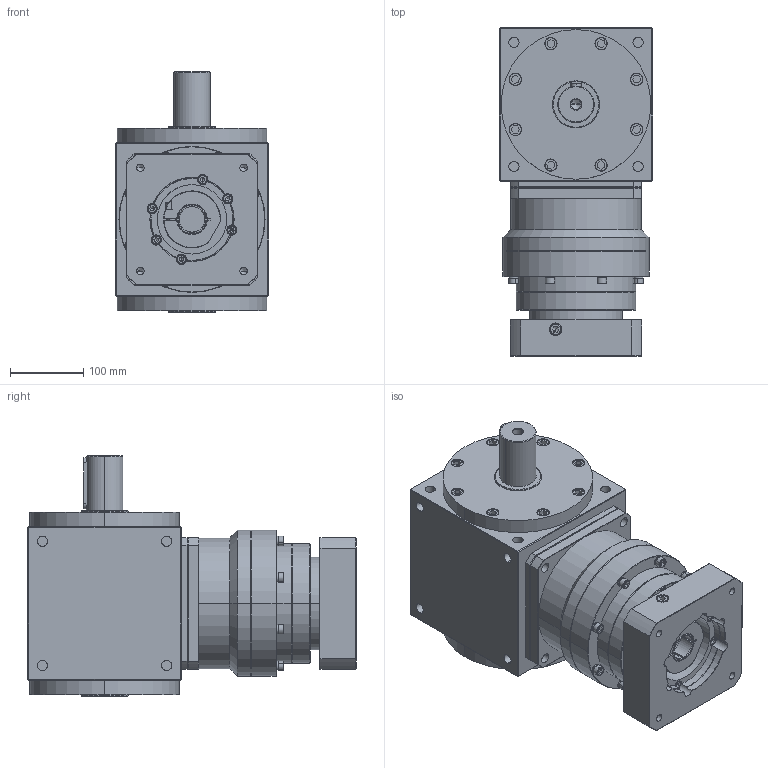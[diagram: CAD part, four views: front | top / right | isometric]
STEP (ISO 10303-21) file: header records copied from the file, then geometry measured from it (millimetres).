
FILE_DESCRIPTION (( 'STEP AP203' ), '1' );
FILE_NAME ('AT210-FL1-L2 35-114.3-200-M12.STEP', '2024-12-30T05:35:26', ( '' ), ( '' ), 'SwSTEP 2.0', 'SolidWorks 2021', '' );
FILE_SCHEMA (( 'CONFIG_CONTROL_DESIGN' ));
Length unit declared in the file: millimetre
Products named in the file (3): KS180L2-114.3-35-83-M12-200俋倛芞; AT210-FL1; AT210-FL1-L2 35-114.3-200-M12
Assembly tree (2 placements, depth 2):
  AT210-FL1-L2 35-114.3-200-M12
    AT210-FL1
    KS180L2-114.3-35-83-M12-200俋倛芞
Bounding box: 210 x 449.5 x 329 mm (x, y, z)
Volume: 16727531 mm3; surface area: 830337.3 mm2
Topology: 45 solids, 45 shells, 1408 faces, 3345 edges, 2079 vertices
Faces by surface type: plane 675, cylinder 509, cone 182, bspline 42
Entity records: 41330 total; most frequent: CARTESIAN_POINT 8652, DIRECTION 7001, ORIENTED_EDGE 6566, EDGE_CURVE 3283, AXIS2_PLACEMENT_3D 2674, VERTEX_POINT 2079, LINE 1653, VECTOR 1653
